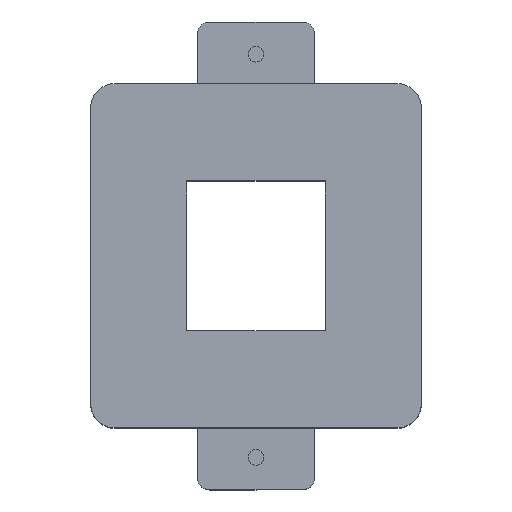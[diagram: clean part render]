
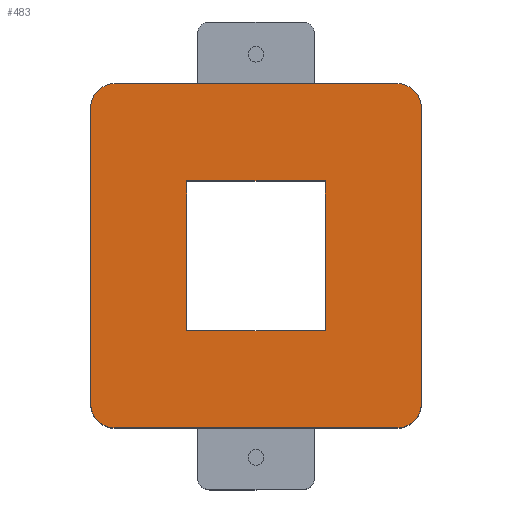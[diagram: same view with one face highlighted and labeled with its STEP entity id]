
A CAD part, top view. The second image highlights one B-rep face of the part: STEP entity #483.
In plain terms, the highlighted planar face has unit normal (0, 0, 1).
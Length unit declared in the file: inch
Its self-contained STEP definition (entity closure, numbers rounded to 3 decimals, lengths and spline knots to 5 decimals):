
#18 = DIRECTION ( 'NONE',  ( 1., 0., 0. ) ) ;
#40 = VERTEX_POINT ( 'NONE', #632 ) ;
#47 = AXIS2_PLACEMENT_3D ( 'NONE', #530, #500, #461 ) ;
#67 = VERTEX_POINT ( 'NONE', #688 ) ;
#79 = EDGE_CURVE ( 'NONE', #40, #916, #534, .T. ) ;
#86 = LINE ( 'NONE', #224, #633 ) ;
#89 = CARTESIAN_POINT ( 'NONE',  ( 1.69, 3.52, 1.25 ) ) ;
#90 = EDGE_CURVE ( 'NONE', #211, #775, #566, .T. ) ;
#113 = AXIS2_PLACEMENT_3D ( 'NONE', #647, #624, #604 ) ;
#117 = EDGE_LOOP ( 'NONE', ( #846, #378, #189, #703 ) ) ;
#128 = DIRECTION ( 'NONE',  ( -1., 0., 0. ) ) ;
#134 = VECTOR ( 'NONE', #485, 39.37008 ) ;
#136 = VECTOR ( 'NONE', #18, 39.37008 ) ;
#143 = FACE_OUTER_BOUND ( 'NONE', #938, .T. ) ;
#148 = CARTESIAN_POINT ( 'NONE',  ( -1.69, 3.52, 1.25 ) ) ;
#160 = CARTESIAN_POINT ( 'NONE',  ( -1.44, 3.27, 1.25 ) ) ;
#169 = AXIS2_PLACEMENT_3D ( 'NONE', #921, #918, #1031 ) ;
#189 = ORIENTED_EDGE ( 'NONE', *, *, #734, .F. ) ;
#209 = CARTESIAN_POINT ( 'NONE',  ( 1.69, 3.27, 1.25 ) ) ;
#211 = VERTEX_POINT ( 'NONE', #209 ) ;
#215 = EDGE_CURVE ( 'NONE', #406, #279, #86, .T. ) ;
#224 = CARTESIAN_POINT ( 'NONE',  ( 0.71, 2.525, 1.25 ) ) ;
#228 = DIRECTION ( 'NONE',  ( 0., 0., 1. ) ) ;
#252 = DIRECTION ( 'NONE',  ( -1., 0., 0. ) ) ;
#271 = DIRECTION ( 'NONE',  ( -1., 0., 0. ) ) ;
#279 = VERTEX_POINT ( 'NONE', #759 ) ;
#305 = CARTESIAN_POINT ( 'NONE',  ( -1.44, 0.25, 1.25 ) ) ;
#309 = DIRECTION ( 'NONE',  ( 0., 0., 1. ) ) ;
#314 = DIRECTION ( 'NONE',  ( -1., 0., 0. ) ) ;
#335 = CARTESIAN_POINT ( 'NONE',  ( -1.69, 3.27, 1.25 ) ) ;
#343 = LINE ( 'NONE', #830, #136 ) ;
#352 = ORIENTED_EDGE ( 'NONE', *, *, #90, .T. ) ;
#355 = ORIENTED_EDGE ( 'NONE', *, *, #869, .T. ) ;
#357 = ORIENTED_EDGE ( 'NONE', *, *, #428, .T. ) ;
#378 = ORIENTED_EDGE ( 'NONE', *, *, #215, .F. ) ;
#380 = EDGE_CURVE ( 'NONE', #916, #928, #947, .T. ) ;
#382 = CARTESIAN_POINT ( 'NONE',  ( -1.44, 0., 1.25 ) ) ;
#397 = FACE_BOUND ( 'NONE', #117, .T. ) ;
#406 = VERTEX_POINT ( 'NONE', #1064 ) ;
#425 = CARTESIAN_POINT ( 'NONE',  ( -1.69, 0.25, 1.25 ) ) ;
#428 = EDGE_CURVE ( 'NONE', #550, #211, #643, .T. ) ;
#442 = ORIENTED_EDGE ( 'NONE', *, *, #79, .T. ) ;
#461 = DIRECTION ( 'NONE',  ( -1., 0., 0. ) ) ;
#472 = CARTESIAN_POINT ( 'NONE',  ( -0.71, 0.995, 1.25 ) ) ;
#480 = ORIENTED_EDGE ( 'NONE', *, *, #850, .T. ) ;
#483 = ADVANCED_FACE ( 'NONE', ( #143, #397 ), #503, .F. ) ;
#485 = DIRECTION ( 'NONE',  ( 0., -1., 0. ) ) ;
#500 = DIRECTION ( 'NONE',  ( 0., 0., -1. ) ) ;
#503 = PLANE ( 'NONE',  #47 ) ;
#518 = EDGE_CURVE ( 'NONE', #779, #550, #1044, .T. ) ;
#526 = CARTESIAN_POINT ( 'NONE',  ( 1.69, 3.52, 1.25 ) ) ;
#530 = CARTESIAN_POINT ( 'NONE',  ( 0., 0., 1.25 ) ) ;
#534 = CIRCLE ( 'NONE', #1089, 0.25 ) ;
#550 = VERTEX_POINT ( 'NONE', #1015 ) ;
#566 = CIRCLE ( 'NONE', #113, 0.25 ) ;
#575 = EDGE_CURVE ( 'NONE', #67, #594, #955, .T. ) ;
#578 = DIRECTION ( 'NONE',  ( 0., 1., 0. ) ) ;
#584 = LINE ( 'NONE', #472, #134 ) ;
#594 = VERTEX_POINT ( 'NONE', #934 ) ;
#604 = DIRECTION ( 'NONE',  ( -1., 0., 0. ) ) ;
#607 = LINE ( 'NONE', #778, #679 ) ;
#624 = DIRECTION ( 'NONE',  ( 0., 0., 1. ) ) ;
#632 = CARTESIAN_POINT ( 'NONE',  ( -1.44, 3.52, 1.25 ) ) ;
#633 = VECTOR ( 'NONE', #128, 39.37008 ) ;
#643 = LINE ( 'NONE', #526, #746 ) ;
#647 = CARTESIAN_POINT ( 'NONE',  ( 1.44, 3.27, 1.25 ) ) ;
#679 = VECTOR ( 'NONE', #752, 39.37008 ) ;
#688 = CARTESIAN_POINT ( 'NONE',  ( -0.71, 0.995, 1.25 ) ) ;
#696 = AXIS2_PLACEMENT_3D ( 'NONE', #305, #309, #314 ) ;
#703 = ORIENTED_EDGE ( 'NONE', *, *, #575, .F. ) ;
#708 = CARTESIAN_POINT ( 'NONE',  ( 1.44, 3.52, 1.25 ) ) ;
#734 = EDGE_CURVE ( 'NONE', #594, #406, #607, .T. ) ;
#737 = CARTESIAN_POINT ( 'NONE',  ( 1.44, 0., 1.25 ) ) ;
#746 = VECTOR ( 'NONE', #578, 39.37008 ) ;
#752 = DIRECTION ( 'NONE',  ( 0., 1., 0. ) ) ;
#759 = CARTESIAN_POINT ( 'NONE',  ( -0.71, 2.525, 1.25 ) ) ;
#775 = VERTEX_POINT ( 'NONE', #708 ) ;
#778 = CARTESIAN_POINT ( 'NONE',  ( 0.71, 0.995, 1.25 ) ) ;
#779 = VERTEX_POINT ( 'NONE', #737 ) ;
#830 = CARTESIAN_POINT ( 'NONE',  ( 1.69, 0., 1.25 ) ) ;
#846 = ORIENTED_EDGE ( 'NONE', *, *, #937, .F. ) ;
#850 = EDGE_CURVE ( 'NONE', #775, #40, #880, .T. ) ;
#861 = VECTOR ( 'NONE', #252, 39.37008 ) ;
#869 = EDGE_CURVE ( 'NONE', #928, #925, #1072, .T. ) ;
#880 = LINE ( 'NONE', #89, #861 ) ;
#888 = ORIENTED_EDGE ( 'NONE', *, *, #380, .T. ) ;
#916 = VERTEX_POINT ( 'NONE', #335 ) ;
#918 = DIRECTION ( 'NONE',  ( 0., 0., 1. ) ) ;
#921 = CARTESIAN_POINT ( 'NONE',  ( 1.44, 0.25, 1.25 ) ) ;
#925 = VERTEX_POINT ( 'NONE', #382 ) ;
#928 = VERTEX_POINT ( 'NONE', #425 ) ;
#934 = CARTESIAN_POINT ( 'NONE',  ( 0.71, 0.995, 1.25 ) ) ;
#937 = EDGE_CURVE ( 'NONE', #279, #67, #584, .T. ) ;
#938 = EDGE_LOOP ( 'NONE', ( #357, #352, #480, #442, #888, #355, #958, #1016 ) ) ;
#947 = LINE ( 'NONE', #148, #1027 ) ;
#955 = LINE ( 'NONE', #994, #1025 ) ;
#958 = ORIENTED_EDGE ( 'NONE', *, *, #997, .T. ) ;
#976 = DIRECTION ( 'NONE',  ( 1., 0., 0. ) ) ;
#994 = CARTESIAN_POINT ( 'NONE',  ( 0.71, 0.995, 1.25 ) ) ;
#996 = DIRECTION ( 'NONE',  ( 0., -1., 0. ) ) ;
#997 = EDGE_CURVE ( 'NONE', #925, #779, #343, .T. ) ;
#1015 = CARTESIAN_POINT ( 'NONE',  ( 1.69, 0.25, 1.25 ) ) ;
#1016 = ORIENTED_EDGE ( 'NONE', *, *, #518, .T. ) ;
#1025 = VECTOR ( 'NONE', #976, 39.37008 ) ;
#1027 = VECTOR ( 'NONE', #996, 39.37008 ) ;
#1031 = DIRECTION ( 'NONE',  ( -1., 0., 0. ) ) ;
#1044 = CIRCLE ( 'NONE', #169, 0.25 ) ;
#1064 = CARTESIAN_POINT ( 'NONE',  ( 0.71, 2.525, 1.25 ) ) ;
#1072 = CIRCLE ( 'NONE', #696, 0.25 ) ;
#1089 = AXIS2_PLACEMENT_3D ( 'NONE', #160, #228, #271 ) ;
